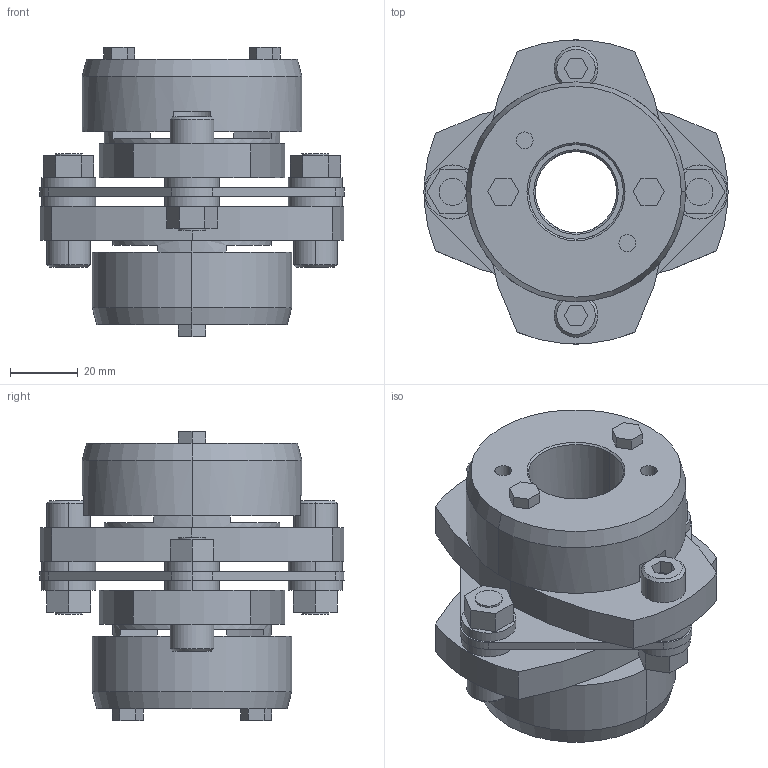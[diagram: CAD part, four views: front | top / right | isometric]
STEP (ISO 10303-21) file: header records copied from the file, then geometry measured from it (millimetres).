
FILE_DESCRIPTION((''),'2;1');
FILE_NAME('LCS-90T7-24×28.stp','2015-11-01T20:19:46',(''),(''),'AutoCAD STEP 2000i','AutoCAD 2000i',', , ');
FILE_SCHEMA(('CONFIG_CONTROL_DESIGN'));
Length unit declared in the file: millimetre
Products named in the file (10): LCS-90T7-25×30; 忣兜1; LC90T7-T030; LC90T7-T025-1; LC90T7-T025; LC90T7-T019-1; LC90T7-T019; LC90-B019-1; LC90-B019; LCS90-ITA
Assembly tree (9 placements, depth 2):
  LCS-90T7-25×30
    忣兜1
    LC90T7-T030
    LC90T7-T025-1
    LC90T7-T025
    LC90T7-T019-1
    LC90T7-T019
    LC90-B019-1
    LC90-B019
    LCS90-ITA
Bounding box: 90 x 89.94 x 85.5 mm (x, y, z)
Volume: 206060.5 mm3; surface area: 53110.2 mm2
Topology: 1 solids, 1 shells, 222 faces, 544 edges, 356 vertices
Faces by surface type: plane 120, cylinder 82, cone 20
Entity records: 6829 total; most frequent: DIRECTION 1212, CARTESIAN_POINT 1132, ORIENTED_EDGE 1088, EDGE_CURVE 544, AXIS2_PLACEMENT_3D 436, VERTEX_POINT 356, VECTOR 340, LINE 340
